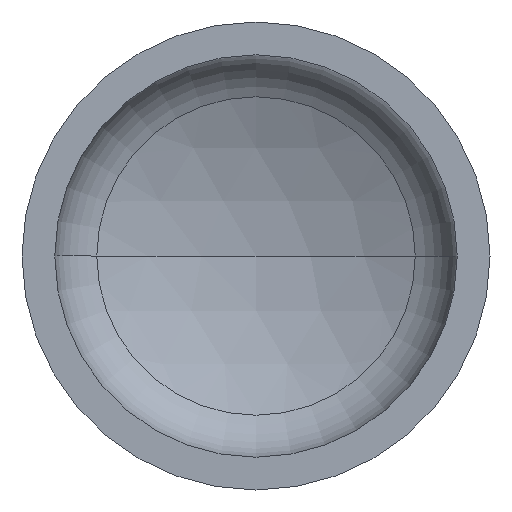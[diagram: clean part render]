
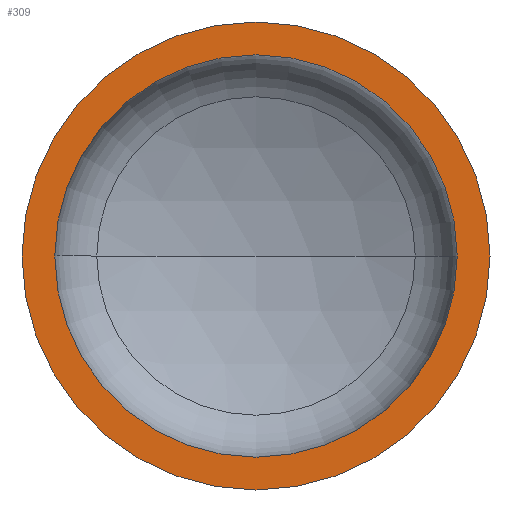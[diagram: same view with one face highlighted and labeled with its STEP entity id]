
A CAD part, front view. The second image highlights one B-rep face of the part: STEP entity #309.
In plain terms, the highlighted planar face has unit normal (0, -1, 0).
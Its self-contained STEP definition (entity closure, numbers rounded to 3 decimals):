
#5 = ORIENTED_EDGE ( 'NONE', *, *, #406, .T. ) ;
#26 = VERTEX_POINT ( 'NONE', #96 ) ;
#29 = CARTESIAN_POINT ( 'NONE',  ( 344., 0., 0. ) ) ;
#34 = AXIS2_PLACEMENT_3D ( 'NONE', #307, #154, #330 ) ;
#49 = AXIS2_PLACEMENT_3D ( 'NONE', #328, #392, #269 ) ;
#52 = ORIENTED_EDGE ( 'NONE', *, *, #183, .T. ) ;
#59 = DIRECTION ( 'NONE',  ( 1., 0., 0. ) ) ;
#67 = VERTEX_POINT ( 'NONE', #29 ) ;
#73 = ORIENTED_EDGE ( 'NONE', *, *, #189, .F. ) ;
#91 = VERTEX_POINT ( 'NONE', #222 ) ;
#96 = CARTESIAN_POINT ( 'NONE',  ( -400., 0., 0. ) ) ;
#116 = EDGE_LOOP ( 'NONE', ( #5, #52 ) ) ;
#117 = EDGE_LOOP ( 'NONE', ( #73, #130 ) ) ;
#118 = VERTEX_POINT ( 'NONE', #214 ) ;
#130 = ORIENTED_EDGE ( 'NONE', *, *, #362, .F. ) ;
#150 = AXIS2_PLACEMENT_3D ( 'NONE', #280, #282, #288 ) ;
#151 = DIRECTION ( 'NONE',  ( 0., -1., 0. ) ) ;
#152 = AXIS2_PLACEMENT_3D ( 'NONE', #153, #151, #59 ) ;
#153 = CARTESIAN_POINT ( 'NONE',  ( 0., 0., 0. ) ) ;
#154 = DIRECTION ( 'NONE',  ( 0., -1., 0. ) ) ;
#160 = CARTESIAN_POINT ( 'NONE',  ( 0., 0., 0. ) ) ;
#183 = EDGE_CURVE ( 'NONE', #26, #118, #303, .T. ) ;
#189 = EDGE_CURVE ( 'NONE', #67, #91, #258, .T. ) ;
#194 = DIRECTION ( 'NONE',  ( 1., 0., 0. ) ) ;
#201 = CIRCLE ( 'NONE', #34, 344. ) ;
#214 = CARTESIAN_POINT ( 'NONE',  ( 400., 0., 0. ) ) ;
#216 = FACE_OUTER_BOUND ( 'NONE', #116, .T. ) ;
#222 = CARTESIAN_POINT ( 'NONE',  ( -344., 0., 0. ) ) ;
#258 = CIRCLE ( 'NONE', #150, 344. ) ;
#269 = DIRECTION ( 'NONE',  ( -1., 0., 0. ) ) ;
#280 = CARTESIAN_POINT ( 'NONE',  ( 0., 0., 0. ) ) ;
#282 = DIRECTION ( 'NONE',  ( 0., -1., 0. ) ) ;
#288 = DIRECTION ( 'NONE',  ( 1., 0., 0. ) ) ;
#300 = CIRCLE ( 'NONE', #343, 400. ) ;
#303 = CIRCLE ( 'NONE', #152, 400. ) ;
#307 = CARTESIAN_POINT ( 'NONE',  ( 0., 0., 0. ) ) ;
#309 = ADVANCED_FACE ( 'NONE', ( #329, #216 ), #372, .F. ) ;
#328 = CARTESIAN_POINT ( 'NONE',  ( -400., 0., 0. ) ) ;
#329 = FACE_BOUND ( 'NONE', #117, .T. ) ;
#330 = DIRECTION ( 'NONE',  ( 1., 0., 0. ) ) ;
#336 = DIRECTION ( 'NONE',  ( 0., -1., 0. ) ) ;
#343 = AXIS2_PLACEMENT_3D ( 'NONE', #160, #336, #194 ) ;
#362 = EDGE_CURVE ( 'NONE', #91, #67, #201, .T. ) ;
#372 = PLANE ( 'NONE',  #49 ) ;
#392 = DIRECTION ( 'NONE',  ( 0., 1., 0. ) ) ;
#406 = EDGE_CURVE ( 'NONE', #118, #26, #300, .T. ) ;
